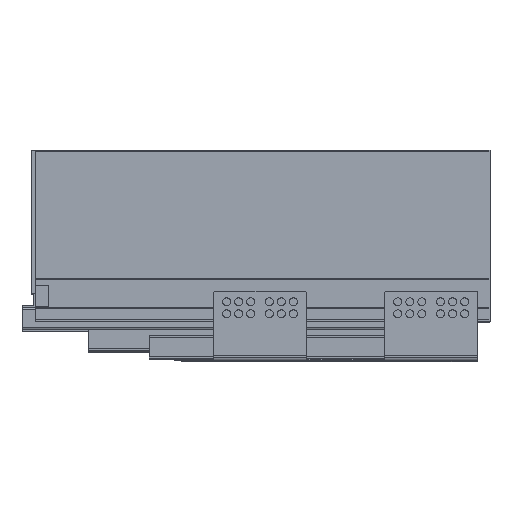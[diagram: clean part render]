
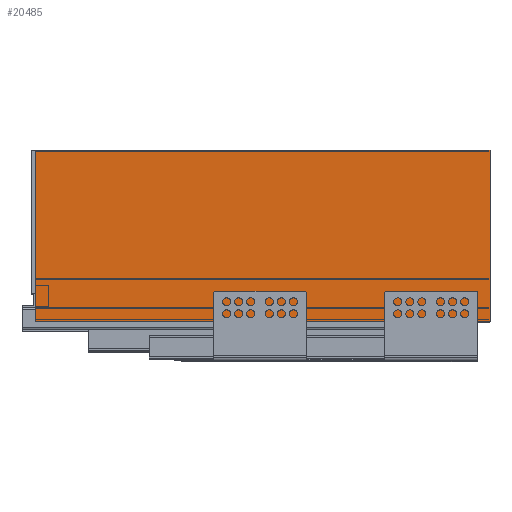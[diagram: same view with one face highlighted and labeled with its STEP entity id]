
A CAD part, top view. The second image highlights one B-rep face of the part: STEP entity #20485.
In plain terms, the highlighted planar face has unit normal (0, 0, 1).
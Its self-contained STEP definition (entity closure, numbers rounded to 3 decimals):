
#497=PLANE('',#21703);
#1348=FACE_OUTER_BOUND('',#2467,.T.);
#2467=EDGE_LOOP('',(#14338,#14339,#14340,#14341));
#3978=LINE('',#29507,#6315);
#3980=LINE('',#29511,#6317);
#3981=LINE('',#29513,#6318);
#3982=LINE('',#29514,#6319);
#6315=VECTOR('',#23791,10.);
#6317=VECTOR('',#23795,10.);
#6318=VECTOR('',#23796,10.);
#6319=VECTOR('',#23797,10.);
#9140=VERTEX_POINT('',#29504);
#9141=VERTEX_POINT('',#29506);
#9142=VERTEX_POINT('',#29510);
#9143=VERTEX_POINT('',#29512);
#11199=EDGE_CURVE('',#9140,#9141,#3978,.T.);
#11201=EDGE_CURVE('',#9140,#9142,#3980,.T.);
#11202=EDGE_CURVE('',#9142,#9143,#3981,.T.);
#11203=EDGE_CURVE('',#9143,#9141,#3982,.T.);
#14338=ORIENTED_EDGE('',*,*,#11201,.T.);
#14339=ORIENTED_EDGE('',*,*,#11202,.T.);
#14340=ORIENTED_EDGE('',*,*,#11203,.T.);
#14341=ORIENTED_EDGE('',*,*,#11199,.F.);
#20485=ADVANCED_FACE('',(#1348),#497,.F.);
#21703=AXIS2_PLACEMENT_3D('',#29509,#23793,#23794);
#23791=DIRECTION('',(1.,0.,0.));
#23793=DIRECTION('center_axis',(0.,0.,-1.));
#23794=DIRECTION('ref_axis',(0.,1.,0.));
#23795=DIRECTION('',(0.,-1.,0.));
#23796=DIRECTION('',(1.,0.,0.));
#23797=DIRECTION('',(0.,1.,0.));
#29504=CARTESIAN_POINT('',(0.,128.,535.));
#29506=CARTESIAN_POINT('',(340.,128.,535.));
#29507=CARTESIAN_POINT('',(0.,128.,535.));
#29509=CARTESIAN_POINT('Origin',(0.,0.,535.));
#29510=CARTESIAN_POINT('',(0.,0.,535.));
#29511=CARTESIAN_POINT('',(0.,128.,535.));
#29512=CARTESIAN_POINT('',(340.,0.,535.));
#29513=CARTESIAN_POINT('',(0.,0.,535.));
#29514=CARTESIAN_POINT('',(340.,128.,535.));
